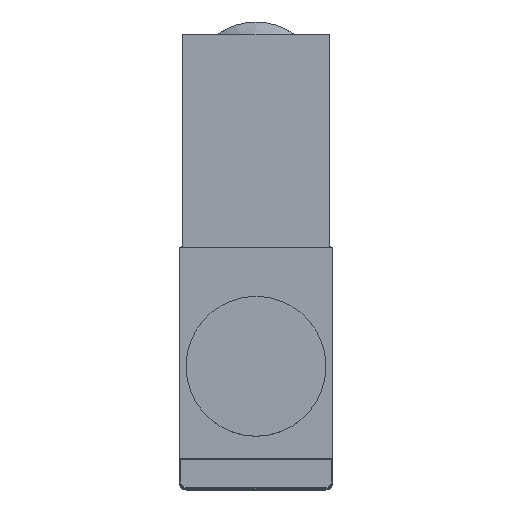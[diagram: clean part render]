
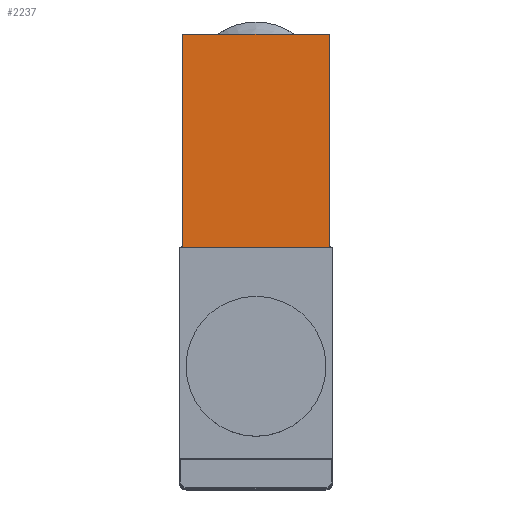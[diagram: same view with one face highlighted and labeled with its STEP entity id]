
A CAD part, top view. The second image highlights one B-rep face of the part: STEP entity #2237.
In plain terms, the highlighted planar face has unit normal (0, 0, 1).
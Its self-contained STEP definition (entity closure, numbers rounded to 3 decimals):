
#31 = CARTESIAN_POINT ( 'NONE',  ( -10.5, 47.5, 78.7 ) ) ;
#241 = CARTESIAN_POINT ( 'NONE',  ( 10.5, 47.5, 78.7 ) ) ;
#267 = VECTOR ( 'NONE', #1568, 1000. ) ;
#441 = CARTESIAN_POINT ( 'NONE',  ( -10.5, 17., 78.7 ) ) ;
#540 = VECTOR ( 'NONE', #3151, 1000. ) ;
#616 = ORIENTED_EDGE ( 'NONE', *, *, #1859, .T. ) ;
#701 = CARTESIAN_POINT ( 'NONE',  ( 10.5, 47.5, 78.7 ) ) ;
#1122 = EDGE_CURVE ( 'NONE', #1533, #1410, #3971, .T. ) ;
#1154 = VECTOR ( 'NONE', #3383, 1000. ) ;
#1257 = VERTEX_POINT ( 'NONE', #4226 ) ;
#1410 = VERTEX_POINT ( 'NONE', #441 ) ;
#1533 = VERTEX_POINT ( 'NONE', #4829 ) ;
#1568 = DIRECTION ( 'NONE',  ( 0., -1., 0. ) ) ;
#1687 = EDGE_CURVE ( 'NONE', #1257, #3190, #3717, .T. ) ;
#1692 = AXIS2_PLACEMENT_3D ( 'NONE', #701, #1760, #3722 ) ;
#1760 = DIRECTION ( 'NONE',  ( 0., 0., 1. ) ) ;
#1859 = EDGE_CURVE ( 'NONE', #3190, #1410, #3502, .T. ) ;
#2172 = CARTESIAN_POINT ( 'NONE',  ( -10.5, 47.5, 78.7 ) ) ;
#2187 = FACE_OUTER_BOUND ( 'NONE', #3715, .T. ) ;
#2237 = ADVANCED_FACE ( 'NONE', ( #2187 ), #3800, .T. ) ;
#2356 = DIRECTION ( 'NONE',  ( -1., 0., 0. ) ) ;
#2379 = LINE ( 'NONE', #2767, #540 ) ;
#2465 = EDGE_CURVE ( 'NONE', #1257, #1533, #2379, .T. ) ;
#2767 = CARTESIAN_POINT ( 'NONE',  ( 10.5, 47.5, 78.7 ) ) ;
#3151 = DIRECTION ( 'NONE',  ( 0., -1., 0. ) ) ;
#3179 = CARTESIAN_POINT ( 'NONE',  ( 0., 17., 78.7 ) ) ;
#3190 = VERTEX_POINT ( 'NONE', #2172 ) ;
#3333 = ORIENTED_EDGE ( 'NONE', *, *, #2465, .F. ) ;
#3383 = DIRECTION ( 'NONE',  ( -1., 0., 0. ) ) ;
#3502 = LINE ( 'NONE', #31, #267 ) ;
#3699 = VECTOR ( 'NONE', #2356, 1000. ) ;
#3715 = EDGE_LOOP ( 'NONE', ( #4620, #3333, #4632, #616 ) ) ;
#3717 = LINE ( 'NONE', #241, #1154 ) ;
#3722 = DIRECTION ( 'NONE',  ( -1., 0., 0. ) ) ;
#3800 = PLANE ( 'NONE',  #1692 ) ;
#3971 = LINE ( 'NONE', #3179, #3699 ) ;
#4226 = CARTESIAN_POINT ( 'NONE',  ( 10.5, 47.5, 78.7 ) ) ;
#4620 = ORIENTED_EDGE ( 'NONE', *, *, #1122, .F. ) ;
#4632 = ORIENTED_EDGE ( 'NONE', *, *, #1687, .T. ) ;
#4829 = CARTESIAN_POINT ( 'NONE',  ( 10.5, 17., 78.7 ) ) ;
